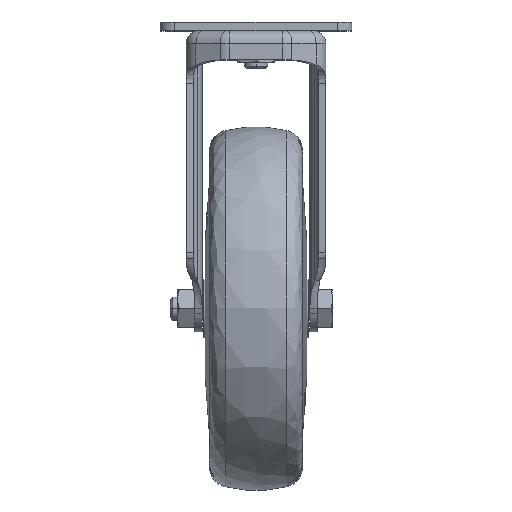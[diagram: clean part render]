
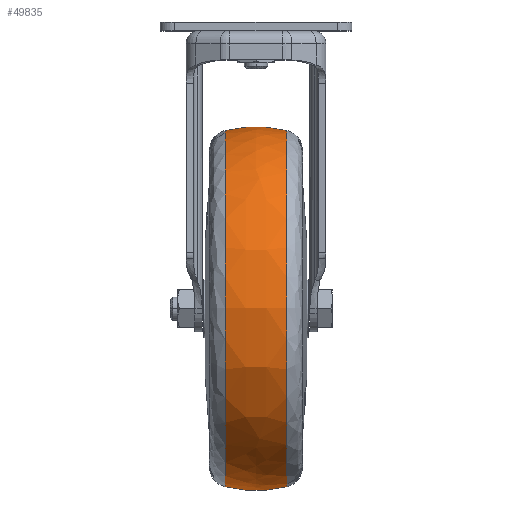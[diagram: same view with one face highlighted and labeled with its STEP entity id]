
A CAD part, top view. The second image highlights one B-rep face of the part: STEP entity #49835.
In plain terms, the highlighted free-form (B-spline) face has degree [3, 3] with [4, 4] control points.
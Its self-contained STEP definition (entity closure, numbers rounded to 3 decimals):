
#532 = DIRECTION ( 'NONE',  ( 0., 0., 1. ) ) ;
#765 = CARTESIAN_POINT ( 'NONE',  ( -10.658, -37.28, 0. ) ) ;
#4775 = CARTESIAN_POINT ( 'NONE',  ( -3.621, -161.435, 125.87 ) ) ;
#8325 = VERTEX_POINT ( 'NONE', #48739 ) ;
#8867 = CARTESIAN_POINT ( 'NONE',  ( -3.621, -35.565, 0. ) ) ;
#9251 = CARTESIAN_POINT ( 'NONE',  ( 10.658, -37.28, 0. ) ) ;
#9299 = CARTESIAN_POINT ( 'NONE',  ( 10.658, -98.5, 0. ) ) ;
#10167 = EDGE_CURVE ( 'NONE', #51188, #42284, #46902, .T. ) ;
#11969 = CARTESIAN_POINT ( 'NONE',  ( 0., -81., 0. ) ) ;
#12775 = EDGE_CURVE ( 'NONE', #41035, #42284, #17694, .T. ) ;
#12884 = CARTESIAN_POINT ( 'NONE',  ( 3.621, -161.435, 125.87 ) ) ;
#12922 = EDGE_CURVE ( 'NONE', #51188, #8325, #16472, .T. ) ;
#13324 = DIRECTION ( 'NONE',  ( 0., -1., 0. ) ) ;
#14474 = ORIENTED_EDGE ( 'NONE', *, *, #10167, .F. ) ;
#15281 = AXIS2_PLACEMENT_3D ( 'NONE', #24436, #532, #28372 ) ;
#15975 = DIRECTION ( 'NONE',  ( 0., 1., 0. ) ) ;
#16472 = CIRCLE ( 'NONE', #27599, 61.22 ) ;
#16715 = CARTESIAN_POINT ( 'NONE',  ( -10.658, -159.72, 0. ) ) ;
#16890 = CARTESIAN_POINT ( 'NONE',  ( 3.621, -35.565, 0. ) ) ;
#17039 = EDGE_CURVE ( 'NONE', #8325, #41035, #47840, .T. ) ;
#17694 = CIRCLE ( 'NONE', #28137, 61.22 ) ;
#20689 = CARTESIAN_POINT ( 'NONE',  ( -10.658, -159.72, 122.439 ) ) ;
#20859 = CARTESIAN_POINT ( 'NONE',  ( 10.658, -159.72, 122.439 ) ) ;
#22993 = CARTESIAN_POINT ( 'NONE',  ( -10.658, -98.5, 0. ) ) ;
#24436 = CARTESIAN_POINT ( 'NONE',  ( 0., -116., 0. ) ) ;
#24511 = ORIENTED_EDGE ( 'NONE', *, *, #12922, .T. ) ;
#24675 = CARTESIAN_POINT ( 'NONE',  ( -10.658, -37.28, 122.439 ) ) ;
#24855 = CARTESIAN_POINT ( 'NONE',  ( 10.658, -37.28, 0. ) ) ;
#24990 = EDGE_LOOP ( 'NONE', ( #14474, #24511, #26276, #35514 ) ) ;
#26276 = ORIENTED_EDGE ( 'NONE', *, *, #17039, .T. ) ;
#26954 = DIRECTION ( 'NONE',  ( 0., -1., 0. ) ) ;
#27599 = AXIS2_PLACEMENT_3D ( 'NONE', #22993, #50512, #26954 ) ;
#28137 = AXIS2_PLACEMENT_3D ( 'NONE', #9299, #36975, #13324 ) ;
#28372 = DIRECTION ( 'NONE',  ( 0., -1., 0. ) ) ;
#28603 = CARTESIAN_POINT ( 'NONE',  ( -3.621, -161.435, 0. ) ) ;
#30693 = CARTESIAN_POINT ( 'NONE',  ( -10.658, -37.28, 0. ) ) ;
#32578 = CARTESIAN_POINT ( 'NONE',  ( -3.621, -35.565, 125.87 ) ) ;
#33386 = FACE_OUTER_BOUND ( 'NONE', #24990, .T. ) ;
#34829 = AXIS2_PLACEMENT_3D ( 'NONE', #11969, #39581, #15975 ) ;
#35514 = ORIENTED_EDGE ( 'NONE', *, *, #12775, .T. ) ;
#36556 = CARTESIAN_POINT ( 'NONE',  ( 3.621, -161.435, 0. ) ) ;
#36975 = DIRECTION ( 'NONE',  ( -1., 0., 0. ) ) ;
#39029 =( BOUNDED_SURFACE ( )  B_SPLINE_SURFACE ( 3, 3, ( 
 ( #16715, #20689, #24675, #765 ),
 ( #28603, #4775, #32578, #8867 ),
 ( #36556, #12884, #40521, #16890 ),
 ( #44554, #20859, #48435, #24855 ) ),
 .UNSPECIFIED., .F., .F., .T. ) 
 B_SPLINE_SURFACE_WITH_KNOTS ( ( 4, 4 ),
 ( 4, 4 ),
 ( 0., 1. ),
 ( 0., 1. ),
 .UNSPECIFIED. ) 
 GEOMETRIC_REPRESENTATION_ITEM ( )  RATIONAL_B_SPLINE_SURFACE ( (
 ( 1., 0.333, 0.333, 1.),
 ( 0.981, 0.327, 0.327, 0.981),
 ( 0.981, 0.327, 0.327, 0.981),
 ( 1., 0.333, 0.333, 1.) ) ) 
 REPRESENTATION_ITEM ( '' )  SURFACE ( )  );
#39581 = DIRECTION ( 'NONE',  ( 0., 0., -1. ) ) ;
#40521 = CARTESIAN_POINT ( 'NONE',  ( 3.621, -35.565, 125.87 ) ) ;
#41035 = VERTEX_POINT ( 'NONE', #45432 ) ;
#42284 = VERTEX_POINT ( 'NONE', #9251 ) ;
#44554 = CARTESIAN_POINT ( 'NONE',  ( 10.658, -159.72, 0. ) ) ;
#45432 = CARTESIAN_POINT ( 'NONE',  ( 10.658, -159.72, 0. ) ) ;
#46902 = CIRCLE ( 'NONE', #34829, 45. ) ;
#47840 = CIRCLE ( 'NONE', #15281, 45. ) ;
#48435 = CARTESIAN_POINT ( 'NONE',  ( 10.658, -37.28, 122.439 ) ) ;
#48739 = CARTESIAN_POINT ( 'NONE',  ( -10.658, -159.72, 0. ) ) ;
#49835 = ADVANCED_FACE ( 'NONE', ( #33386 ), #39029, .T. ) ;
#50512 = DIRECTION ( 'NONE',  ( 1., 0., 0. ) ) ;
#51188 = VERTEX_POINT ( 'NONE', #30693 ) ;
